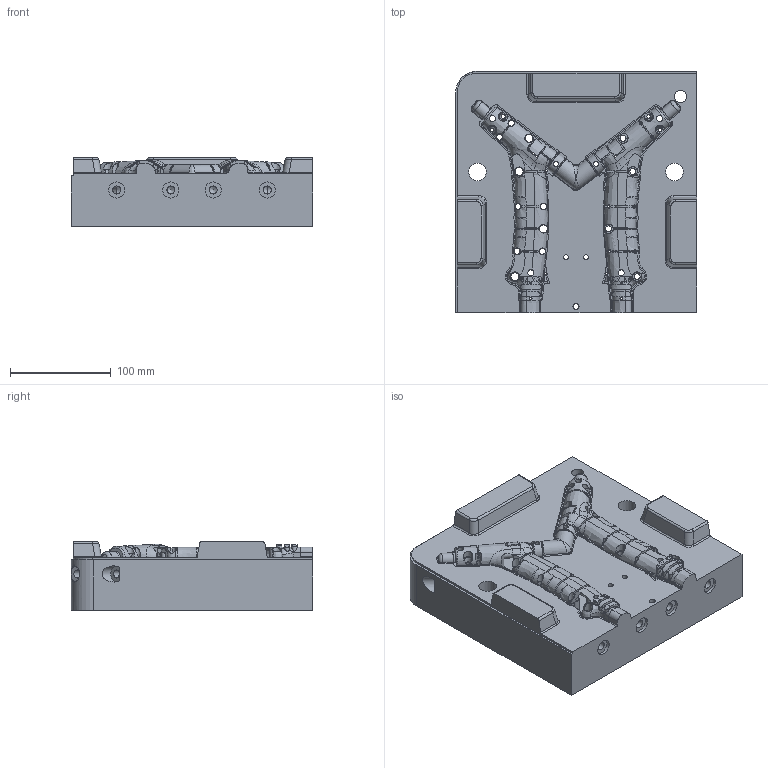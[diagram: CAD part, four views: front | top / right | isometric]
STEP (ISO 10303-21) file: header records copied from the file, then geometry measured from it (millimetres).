
FILE_DESCRIPTION(('STEP AP214'),'1');
FILE_NAME('3113P1_PUNZONE1.stp','2018-10-11T12:40:26',(' '),(' '),'Spatial InterOp 3D',' ',' ');
FILE_SCHEMA(('AUTOMOTIVE_DESIGN { 1 0 10303 214 1 1 1 1 }'));
Length unit declared in the file: millimetre
Products named in the file (1): 3113P1_PUNZONE1
Bounding box: 240 x 240 x 68 mm (x, y, z)
Surface area: 267188.6 mm2 (no closed solid volume)
Topology: 0 solids, 1 shells, 952 faces, 2900 edges, 1907 vertices
Faces by surface type: plane 324, cylinder 321, bspline 141, cone 129, offset 20, extrusion 13, torus 4
Full cylindrical faces by diameter (mm): 2 x9, 2.5 x5, 3 x3, 3.5 x7, 4 x8, 4.5 x2, 5 x6, 6 x21, 6.1 x3, 7 x14, 8 x28, 9 x4, 10.2 x8, 12 x1, 14 x1, 16 x8, 17.5 x2
Entity records: 118205 total; most frequent: CARTESIAN_POINT 87888, ORIENTED_EDGE 5040, DIRECTION 3984, EDGE_CURVE 2520, VERTEX_POINT 1776, AXIS2_PLACEMENT_3D 1621, EDGE_LOOP 1270, FACE_OUTER_BOUND 1087
